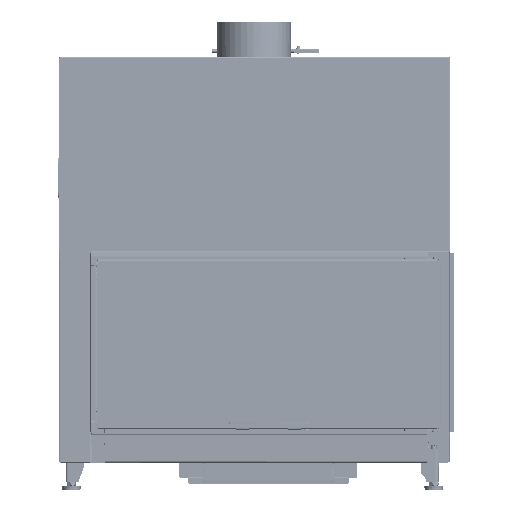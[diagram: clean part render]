
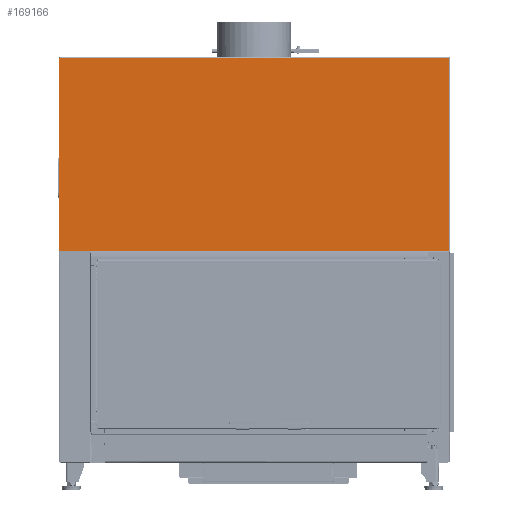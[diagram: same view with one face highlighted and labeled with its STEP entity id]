
A CAD part, front view. The second image highlights one B-rep face of the part: STEP entity #169166.
In plain terms, the highlighted planar face has unit normal (0, -1, 0).
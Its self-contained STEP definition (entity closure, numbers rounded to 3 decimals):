
#6518=PLANE('',#183206);
#14017=FACE_OUTER_BOUND('',#23276,.T.);
#23276=EDGE_LOOP('',(#133863,#133864,#133865,#133866,#133867,#133868,#133869,
#133870,#133871,#133872,#133873));
#36379=LINE('',#269244,#51835);
#37041=LINE('',#271663,#52497);
#37042=LINE('',#271665,#52498);
#37043=LINE('',#271668,#52499);
#37044=LINE('',#271670,#52500);
#37045=LINE('',#271672,#52501);
#37046=LINE('',#271674,#52502);
#37047=LINE('',#271677,#52503);
#51835=VECTOR('',#218290,10.);
#52497=VECTOR('',#220156,10.);
#52498=VECTOR('',#220157,10.);
#52499=VECTOR('',#220160,10.);
#52500=VECTOR('',#220161,10.);
#52501=VECTOR('',#220162,10.);
#52502=VECTOR('',#220163,10.);
#52503=VECTOR('',#220166,10.);
#61803=CIRCLE('',#183207,3.);
#61804=CIRCLE('',#183208,0.1);
#61805=CIRCLE('',#183209,3.);
#73340=VERTEX_POINT('',#269241);
#73341=VERTEX_POINT('',#269243);
#73969=VERTEX_POINT('',#271659);
#73970=VERTEX_POINT('',#271660);
#73971=VERTEX_POINT('',#271662);
#73972=VERTEX_POINT('',#271664);
#73973=VERTEX_POINT('',#271667);
#73974=VERTEX_POINT('',#271669);
#73975=VERTEX_POINT('',#271671);
#73976=VERTEX_POINT('',#271673);
#73977=VERTEX_POINT('',#271675);
#93764=EDGE_CURVE('',#73341,#73340,#36379,.T.);
#94731=EDGE_CURVE('',#73969,#73970,#61803,.T.);
#94732=EDGE_CURVE('',#73969,#73971,#37041,.T.);
#94733=EDGE_CURVE('',#73971,#73972,#37042,.T.);
#94734=EDGE_CURVE('',#73972,#73341,#61804,.T.);
#94735=EDGE_CURVE('',#73340,#73973,#37043,.T.);
#94736=EDGE_CURVE('',#73973,#73974,#37044,.T.);
#94737=EDGE_CURVE('',#73974,#73975,#37045,.T.);
#94738=EDGE_CURVE('',#73975,#73976,#37046,.T.);
#94739=EDGE_CURVE('',#73977,#73976,#61805,.T.);
#94740=EDGE_CURVE('',#73977,#73970,#37047,.T.);
#133863=ORIENTED_EDGE('',*,*,#94731,.F.);
#133864=ORIENTED_EDGE('',*,*,#94732,.T.);
#133865=ORIENTED_EDGE('',*,*,#94733,.T.);
#133866=ORIENTED_EDGE('',*,*,#94734,.T.);
#133867=ORIENTED_EDGE('',*,*,#93764,.T.);
#133868=ORIENTED_EDGE('',*,*,#94735,.T.);
#133869=ORIENTED_EDGE('',*,*,#94736,.T.);
#133870=ORIENTED_EDGE('',*,*,#94737,.T.);
#133871=ORIENTED_EDGE('',*,*,#94738,.T.);
#133872=ORIENTED_EDGE('',*,*,#94739,.F.);
#133873=ORIENTED_EDGE('',*,*,#94740,.T.);
#169166=ADVANCED_FACE('',(#14017),#6518,.T.);
#183206=AXIS2_PLACEMENT_3D('',#271658,#220152,#220153);
#183207=AXIS2_PLACEMENT_3D('',#271661,#220154,#220155);
#183208=AXIS2_PLACEMENT_3D('',#271666,#220158,#220159);
#183209=AXIS2_PLACEMENT_3D('',#271676,#220164,#220165);
#218290=DIRECTION('',(0.,0.,-1.));
#220152=DIRECTION('center_axis',(0.,-1.,
0.));
#220153=DIRECTION('ref_axis',(1.,0.,0.));
#220154=DIRECTION('center_axis',(0.,1.,
0.));
#220155=DIRECTION('ref_axis',(-0.707,0.,-0.707));
#220156=DIRECTION('',(1.,0.,0.));
#220157=DIRECTION('',(0.,0.,1.));
#220158=DIRECTION('center_axis',(0.,1.,
0.));
#220159=DIRECTION('ref_axis',(1.,0.,0.));
#220160=DIRECTION('',(1.,0.,0.));
#220161=DIRECTION('',(0.,0.,1.));
#220162=DIRECTION('',(-1.,0.,0.));
#220163=DIRECTION('',(-1.,0.,0.));
#220164=DIRECTION('center_axis',(0.,1.,
0.));
#220165=DIRECTION('ref_axis',(-0.707,0.,0.707));
#220166=DIRECTION('',(0.,0.,-1.));
#269241=CARTESIAN_POINT('',(87.4,-59.983,582.259));
#269243=CARTESIAN_POINT('',(87.4,-59.983,582.359));
#269244=CARTESIAN_POINT('',(87.4,-59.979,715.947));
#271658=CARTESIAN_POINT('Origin',(580.775,-59.975,849.634));
#271659=CARTESIAN_POINT('',(3.,-59.983,582.259));
#271660=CARTESIAN_POINT('',(0.,-59.983,585.259));
#271661=CARTESIAN_POINT('Origin',(3.,-59.983,585.259));
#271662=CARTESIAN_POINT('',(87.2,-59.983,582.259));
#271663=CARTESIAN_POINT('',(0.,-59.983,582.259));
#271664=CARTESIAN_POINT('',(87.2,-59.983,582.359));
#271665=CARTESIAN_POINT('',(87.2,-59.979,715.997));
#271666=CARTESIAN_POINT('Origin',(87.3,-59.983,582.359));
#271667=CARTESIAN_POINT('',(1074.65,-59.983,582.259));
#271668=CARTESIAN_POINT('',(0.,-59.983,582.259));
#271669=CARTESIAN_POINT('',(1074.65,-59.968,1114.259));
#271670=CARTESIAN_POINT('',(1074.65,-59.979,715.947));
#271671=CARTESIAN_POINT('',(84.15,-59.968,1114.259));
#271672=CARTESIAN_POINT('',(829.088,-59.968,1114.259));
#271673=CARTESIAN_POINT('',(3.,-59.968,1114.259));
#271674=CARTESIAN_POINT('',(84.15,-59.968,1114.259));
#271675=CARTESIAN_POINT('',(0.,-59.968,1111.259));
#271676=CARTESIAN_POINT('Origin',(3.,-59.968,1111.259));
#271677=CARTESIAN_POINT('',(0.,-59.968,1114.259));
